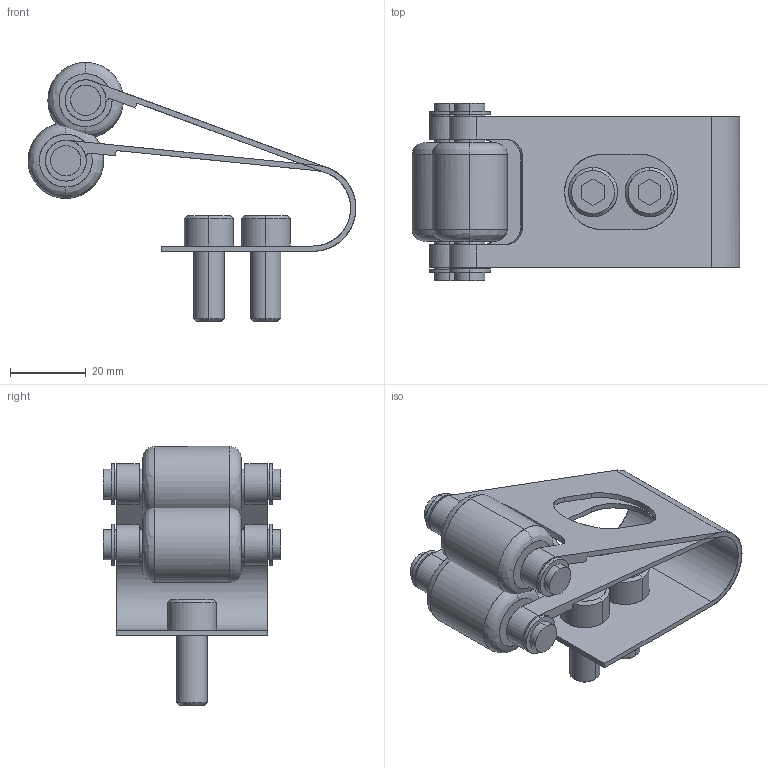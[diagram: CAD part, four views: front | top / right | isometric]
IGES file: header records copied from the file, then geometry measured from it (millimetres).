
Global section: file name: E:\UnigraphicsGraphicData\MISUMI_PRESS-PARTS\IGES\3d_zorwms_01839_r00.igs; native system: NX V5.0; preprocessor: UGS NX IGES V5.0; author: MISUMI; date: 20110105.163523; units: millimetre
Bounding box: 86.81 x 47 x 68.6 mm (x, y, z)
Surface area: 31010.3 mm2 (no closed solid volume)
Topology: 0 solids, 0 shells, 150 faces, 1128 edges, 1128 vertices
Faces by surface type: bspline 150
